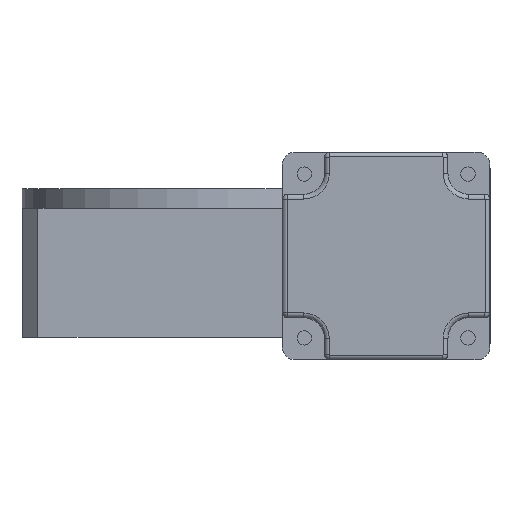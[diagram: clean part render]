
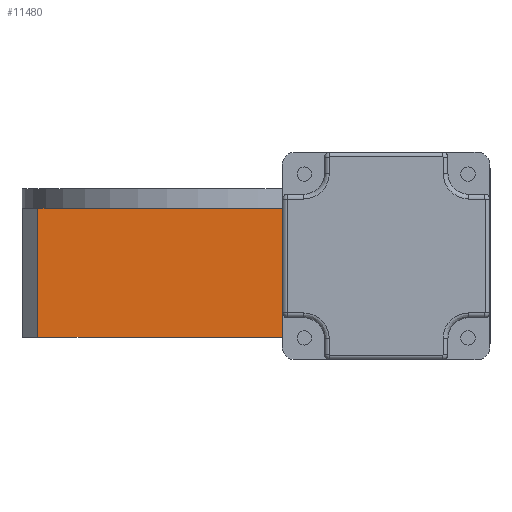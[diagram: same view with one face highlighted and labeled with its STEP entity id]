
A CAD part, front view. The second image highlights one B-rep face of the part: STEP entity #11480.
In plain terms, the highlighted planar face has unit normal (0, -1, 0).
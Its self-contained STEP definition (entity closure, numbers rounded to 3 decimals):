
#533 = DIRECTION ( 'NONE',  ( 0., 0., -1. ) ) ;
#584 = ORIENTED_EDGE ( 'NONE', *, *, #4601, .F. ) ;
#915 = PLANE ( 'NONE',  #5686 ) ;
#1029 = CARTESIAN_POINT ( 'NONE',  ( 229.724, -176.879, 93. ) ) ;
#1517 = VECTOR ( 'NONE', #4373, 1000. ) ;
#1605 = VERTEX_POINT ( 'NONE', #12337 ) ;
#3369 = CARTESIAN_POINT ( 'NONE',  ( 229.724, -176.879, 0. ) ) ;
#4056 = LINE ( 'NONE', #5003, #14229 ) ;
#4239 = VERTEX_POINT ( 'NONE', #9634 ) ;
#4373 = DIRECTION ( 'NONE',  ( -1., 0., 0. ) ) ;
#4601 = EDGE_CURVE ( 'NONE', #10209, #12923, #11884, .T. ) ;
#4776 = EDGE_CURVE ( 'NONE', #4916, #1605, #4056, .T. ) ;
#4870 = FACE_OUTER_BOUND ( 'NONE', #9551, .T. ) ;
#4916 = VERTEX_POINT ( 'NONE', #12517 ) ;
#5003 = CARTESIAN_POINT ( 'NONE',  ( -30.276, -176.879, 81. ) ) ;
#5237 = DIRECTION ( 'NONE',  ( 1., 0., 0. ) ) ;
#5686 = AXIS2_PLACEMENT_3D ( 'NONE', #7946, #8904, #14833 ) ;
#6050 = VECTOR ( 'NONE', #9022, 1000. ) ;
#6619 = VECTOR ( 'NONE', #5237, 1000. ) ;
#6709 = CARTESIAN_POINT ( 'NONE',  ( 239.724, -176.879, 0. ) ) ;
#6829 = EDGE_CURVE ( 'NONE', #1605, #4239, #9724, .T. ) ;
#7333 = DIRECTION ( 'NONE',  ( 1., 0., 0. ) ) ;
#7573 = EDGE_CURVE ( 'NONE', #4239, #10209, #14042, .T. ) ;
#7946 = CARTESIAN_POINT ( 'NONE',  ( -30.276, -176.879, 93. ) ) ;
#8056 = CARTESIAN_POINT ( 'NONE',  ( -30.276, -176.879, 0. ) ) ;
#8687 = CARTESIAN_POINT ( 'NONE',  ( -30.276, -176.879, 93. ) ) ;
#8895 = VECTOR ( 'NONE', #533, 1000. ) ;
#8904 = DIRECTION ( 'NONE',  ( 0., 1., 0. ) ) ;
#9022 = DIRECTION ( 'NONE',  ( 0., 0., -1. ) ) ;
#9465 = EDGE_CURVE ( 'NONE', #4916, #12923, #13270, .T. ) ;
#9551 = EDGE_LOOP ( 'NONE', ( #14038, #584, #15036, #10659, #13928 ) ) ;
#9634 = CARTESIAN_POINT ( 'NONE',  ( 229.724, -176.879, 81. ) ) ;
#9724 = LINE ( 'NONE', #12381, #6619 ) ;
#10209 = VERTEX_POINT ( 'NONE', #3369 ) ;
#10659 = ORIENTED_EDGE ( 'NONE', *, *, #6829, .F. ) ;
#11480 = ADVANCED_FACE ( 'NONE', ( #4870 ), #915, .F. ) ;
#11884 = LINE ( 'NONE', #6709, #1517 ) ;
#12337 = CARTESIAN_POINT ( 'NONE',  ( 69.724, -176.879, 81. ) ) ;
#12381 = CARTESIAN_POINT ( 'NONE',  ( -30.276, -176.879, 81. ) ) ;
#12517 = CARTESIAN_POINT ( 'NONE',  ( -30.276, -176.879, 81. ) ) ;
#12923 = VERTEX_POINT ( 'NONE', #8056 ) ;
#13270 = LINE ( 'NONE', #8687, #8895 ) ;
#13928 = ORIENTED_EDGE ( 'NONE', *, *, #4776, .F. ) ;
#14038 = ORIENTED_EDGE ( 'NONE', *, *, #9465, .T. ) ;
#14042 = LINE ( 'NONE', #1029, #6050 ) ;
#14229 = VECTOR ( 'NONE', #7333, 1000. ) ;
#14833 = DIRECTION ( 'NONE',  ( 0., 0., 1. ) ) ;
#15036 = ORIENTED_EDGE ( 'NONE', *, *, #7573, .F. ) ;
